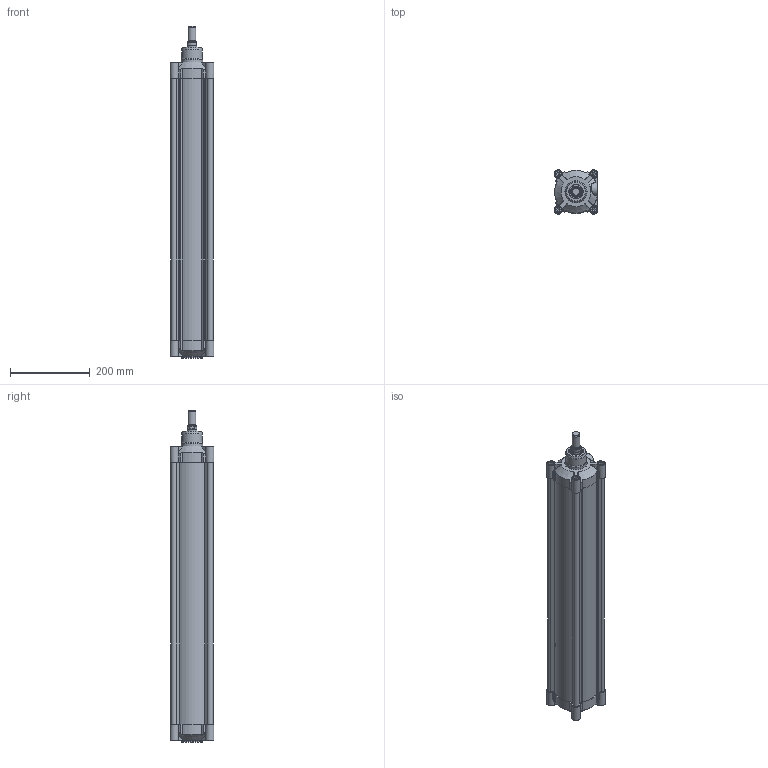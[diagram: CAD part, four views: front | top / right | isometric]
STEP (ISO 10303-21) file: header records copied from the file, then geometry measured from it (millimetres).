
FILE_DESCRIPTION(/* description */ (''),/* implementation_level */ '2;1');
FILE_NAME(/* name */ 'T:\Archivio Inventor\- 00 NUOVI STP PER SITO CON STELO CHE SI MUOVE\SERIE H - U\SERIE HDM\HDM100 - TUBO NUOVO\HDM100.600.GS.M.stp',/* time_stamp */ '2018-08-02T09:55:19+02:00',/* author */ ('carlo.corazza'),/* organization */ (''),/* preprocessor_version */ 'ST-DEVELOPER v16.5',/* originating_system */ 'Autodesk Inventor 2017',/* authorisation */ '');
FILE_SCHEMA (('AUTOMOTIVE_DESIGN { 1 0 10303 214 3 1 1 }'));
Length unit declared in the file: millimetre
Products named in the file (5): HDM100.600.GS.M; TP; TA; STELO-600; CORPO-600
Assembly tree (4 placements, depth 2):
  HDM100.600.GS.M
    TP
    TA
    STELO-600
    CORPO-600
Bounding box: 110 x 110 x 833 mm (x, y, z)
Volume: 2014659.2 mm3; surface area: 929530 mm2
Topology: 4 solids, 29 shells, 1355 faces, 3135 edges, 1912 vertices
Faces by surface type: plane 408, cylinder 313, bspline 270, torus 126, cone 122, sphere 116
Full cylindrical faces by diameter (mm): 5 x2, 5.9 x2, 6.5 x2, 7.25 x2, 8.376 x8, 9.4 x4, 10 x8, 10.3 x8, 11.8 x4, 11.9 x2, 12 x4, 16 x9, 16.3 x8, 17 x2, 17.5 x1, 18.631 x2, 20 x1, 24.5 x1, 25 x1, 25.8 x1, 25.962 x1, 30 x1, 31.5 x2, 35 x3, 52 x1, 55 x2, 100 x1
Entity records: 43668 total; most frequent: CARTESIAN_POINT 13702, ORIENTED_EDGE 5710, DIRECTION 5644, EDGE_CURVE 2855, AXIS2_PLACEMENT_3D 2293, VERTEX_POINT 1857, EDGE_LOOP 1690, STYLED_ITEM 1359
